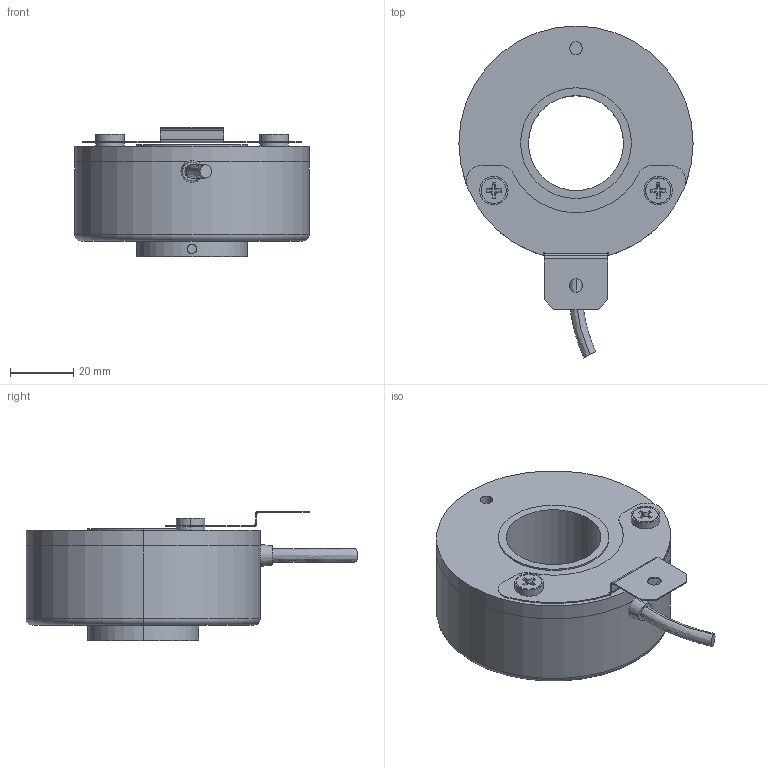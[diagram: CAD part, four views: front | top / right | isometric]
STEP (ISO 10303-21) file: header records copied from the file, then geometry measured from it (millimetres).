
FILE_DESCRIPTION (( 'STEP AP214' ), '1' );
FILE_NAME ('NS_Assem2.STEP', '2024-08-20T00:17:49', ( '' ), ( '' ), 'SwSTEP 2.0', 'SolidWorks 2023', '' );
FILE_SCHEMA (( 'AUTOMOTIVE_DESIGN' ));
Length unit declared in the file: millimetre
Products named in the file (9): NS_Part2; NS_Part3; 座金A M4_2.4mm厚; NS_Assem2; 座金B M4_1mm厚; 取付用板バネ; NS_Assem1; NS_Part1; Flat Head SCREW M4 X6 MM
Assembly tree (11 placements, depth 3):
  NS_Assem2
    NS_Assem1
      NS_Part1
      NS_Part2
      NS_Part3
    取付用板バネ
    座金B M4_1mm厚  x2
    座金A M4_2.4mm厚  x2
    Flat Head SCREW M4 X6 MM  x2
Bounding box: 74 x 104.87 x 41 mm (x, y, z)
Volume: 110104 mm3; surface area: 36130.2 mm2
Topology: 11 solids, 11 shells, 159 faces, 389 edges, 256 vertices
Faces by surface type: cylinder 74, plane 59, cone 14, bspline 10, torus 2
Entity records: 4373 total; most frequent: CARTESIAN_POINT 1032, DIRECTION 689, ORIENTED_EDGE 598, EDGE_CURVE 299, AXIS2_PLACEMENT_3D 267, VERTEX_POINT 194, VECTOR 155, LINE 155
